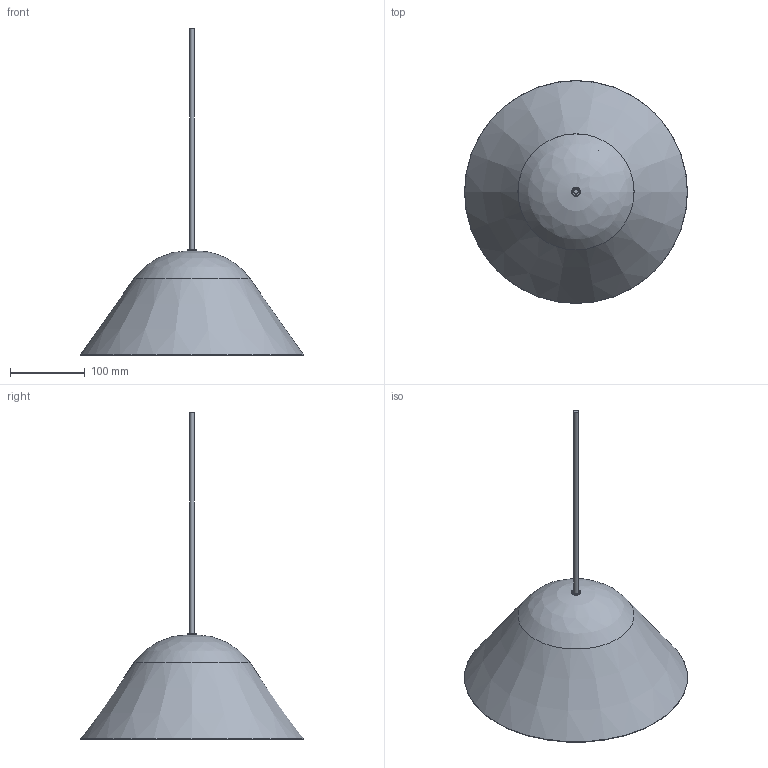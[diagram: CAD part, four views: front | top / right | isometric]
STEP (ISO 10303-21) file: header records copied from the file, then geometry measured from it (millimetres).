
FILE_DESCRIPTION(/* description */ (''),/* implementation_level */ '2;1');
FILE_NAME(/* name */ 'CassisMedium300mmBrass.step',/* time_stamp */ '2023-09-06T15:04:58+02:00',/* author */ (''),/* organization */ (''),/* preprocessor_version */ 'ST-DEVELOPER v20',/* originating_system */ 'Autodesk Translation Framework v12.9.0.99',/* authorisation */ '');
FILE_SCHEMA (('AUTOMOTIVE_DESIGN { 1 0 10303 214 3 1 1 }'));
Length unit declared in the file: millimetre
Products named in the file (1): Cassis Medium 300mm
Bounding box: 299.06 x 299.06 x 438 mm (x, y, z)
Volume: 287943.1 mm3; surface area: 281478.2 mm2
Topology: 7 solids, 7 shells, 39 faces, 65 edges, 41 vertices
Faces by surface type: plane 15, torus 10, cylinder 9, cone 3, bspline 2
Full cylindrical faces by diameter (mm): 6 x1, 10 x2, 12 x1, 70.685 x3, 87.42 x1, 125 x1
Entity records: 1040 total; most frequent: CARTESIAN_POINT 198, DIRECTION 194, ORIENTED_EDGE 130, AXIS2_PLACEMENT_3D 91, EDGE_CURVE 65, CIRCLE 53, EDGE_LOOP 46, VERTEX_POINT 41
